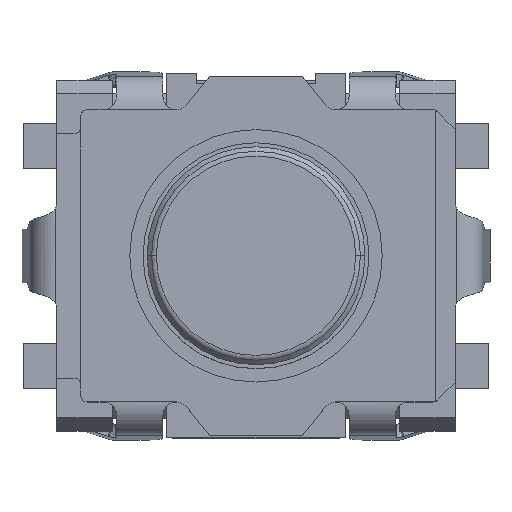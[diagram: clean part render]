
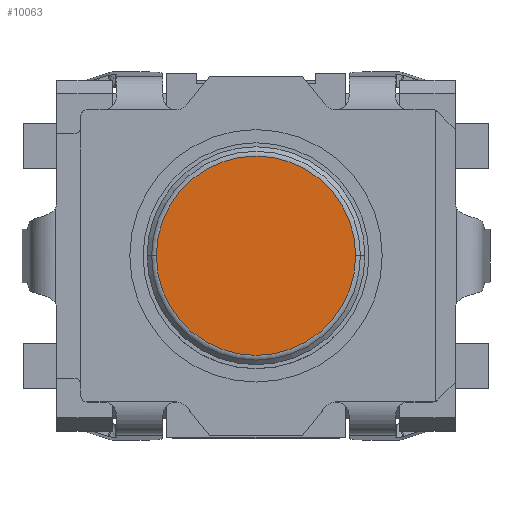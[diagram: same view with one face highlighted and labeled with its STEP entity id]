
A CAD part, top view. The second image highlights one B-rep face of the part: STEP entity #10063.
In plain terms, the highlighted planar face has unit normal (0, 0, 1) as drawn and (0, 1, 0) by its records, which use the part's own axes.
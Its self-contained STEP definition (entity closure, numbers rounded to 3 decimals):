
#1132 = FACE_OUTER_BOUND ( 'NONE', #10064, .T. ) ;
#1258 = DIRECTION ( 'NONE',  ( -1., 0., 0. ) ) ;
#1259 = DIRECTION ( 'NONE',  ( 0., -1., 0. ) ) ;
#1260 = CARTESIAN_POINT ( 'NONE',  ( 0., 1.35, 0. ) ) ;
#1261 = AXIS2_PLACEMENT_3D ( 'NONE', #1260, #1259, #1258 ) ;
#1262 = PLANE ( 'NONE',  #1261 ) ;
#1496 = DIRECTION ( 'NONE',  ( -1., 0., 0. ) ) ;
#1497 = DIRECTION ( 'NONE',  ( 0., -1., 0. ) ) ;
#1498 = CARTESIAN_POINT ( 'NONE',  ( 0., 1.35, 0. ) ) ;
#1499 = AXIS2_PLACEMENT_3D ( 'NONE', #1498, #1497, #1496 ) ;
#1500 = CIRCLE ( 'NONE', #1499, 0.75 ) ;
#2736 = DIRECTION ( 'NONE',  ( 0., -1., 0. ) ) ;
#2741 = CARTESIAN_POINT ( 'NONE',  ( 0.75, 1.35, 0. ) ) ;
#2742 = CARTESIAN_POINT ( 'NONE',  ( -0.75, 1.35, 0. ) ) ;
#2743 = DIRECTION ( 'NONE',  ( -1., 0., 0. ) ) ;
#2760 = CARTESIAN_POINT ( 'NONE',  ( 0., 1.35, 0. ) ) ;
#2761 = AXIS2_PLACEMENT_3D ( 'NONE', #2760, #2736, #2743 ) ;
#2762 = CIRCLE ( 'NONE', #2761, 0.75 ) ;
#10061 = ORIENTED_EDGE ( 'NONE', *, *, #10251, .F. ) ;
#10063 = ADVANCED_FACE ( 'NONE', ( #1132 ), #1262, .F. ) ;
#10064 = EDGE_LOOP ( 'NONE', ( #10061, #10065 ) ) ;
#10065 = ORIENTED_EDGE ( 'NONE', *, *, #10151, .F. ) ;
#10151 = EDGE_CURVE ( 'NONE', #10253, #10252, #1500, .T. ) ;
#10251 = EDGE_CURVE ( 'NONE', #10252, #10253, #2762, .T. ) ;
#10252 = VERTEX_POINT ( 'NONE', #2742 ) ;
#10253 = VERTEX_POINT ( 'NONE', #2741 ) ;
